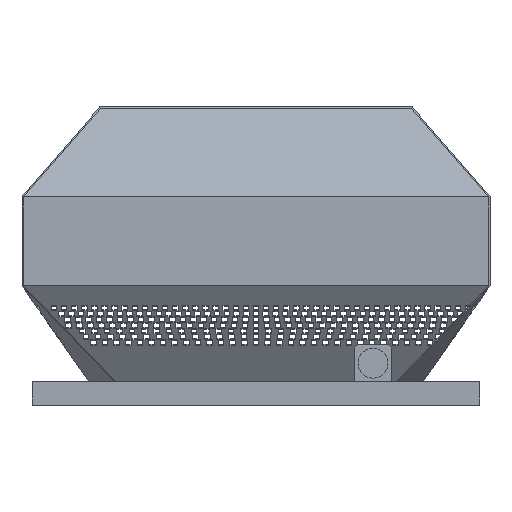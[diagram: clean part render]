
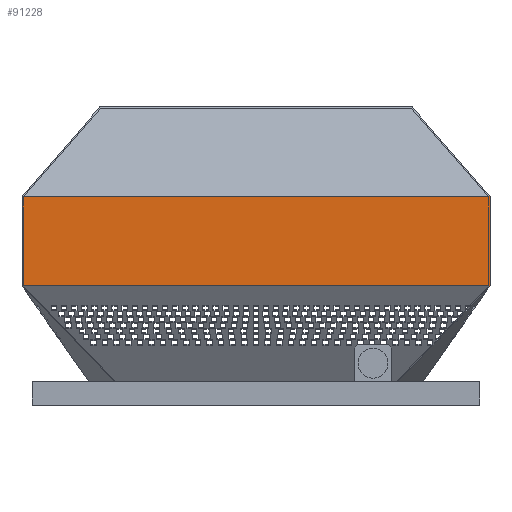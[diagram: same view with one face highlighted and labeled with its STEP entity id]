
A CAD part, left-side view. The second image highlights one B-rep face of the part: STEP entity #91228.
In plain terms, the highlighted planar face has unit normal (-1, 0, 0).
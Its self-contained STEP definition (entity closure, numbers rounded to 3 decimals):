
#7912=PLANE('',#95337);
#11969=FACE_OUTER_BOUND('',#17989,.T.);
#17989=EDGE_LOOP('',(#87134,#87135,#87136,#87137));
#30147=LINE('',#140035,#42331);
#30170=LINE('',#140083,#42354);
#30171=LINE('',#140086,#42355);
#30172=LINE('',#140087,#42356);
#42331=VECTOR('',#115639,10.);
#42354=VECTOR('',#115684,10.);
#42355=VECTOR('',#115687,10.);
#42356=VECTOR('',#115688,10.);
#42654=VERTEX_POINT('',#116466);
#48674=VERTEX_POINT('',#134510);
#50510=VERTEX_POINT('',#140079);
#50512=VERTEX_POINT('',#140085);
#62697=EDGE_CURVE('',#48674,#42654,#30147,.T.);
#62720=EDGE_CURVE('',#50510,#48674,#30170,.T.);
#62721=EDGE_CURVE('',#50512,#50510,#30171,.T.);
#62722=EDGE_CURVE('',#50512,#42654,#30172,.T.);
#87134=ORIENTED_EDGE('',*,*,#62721,.T.);
#87135=ORIENTED_EDGE('',*,*,#62720,.T.);
#87136=ORIENTED_EDGE('',*,*,#62697,.T.);
#87137=ORIENTED_EDGE('',*,*,#62722,.F.);
#91228=ADVANCED_FACE('',(#11969),#7912,.F.);
#95337=AXIS2_PLACEMENT_3D('',#140084,#115685,#115686);
#115639=DIRECTION('',(0.,-1.,0.));
#115684=DIRECTION('',(0.,0.,-1.));
#115685=DIRECTION('center_axis',(1.,0.,0.));
#115686=DIRECTION('ref_axis',(0.,0.,-1.));
#115687=DIRECTION('',(0.,1.,0.));
#115688=DIRECTION('',(0.,0.,-1.));
#116466=CARTESIAN_POINT('',(-303.,-303.,154.4));
#134510=CARTESIAN_POINT('',(-303.,303.,154.4));
#140035=CARTESIAN_POINT('',(-303.,303.,154.4));
#140079=CARTESIAN_POINT('',(-303.,303.,270.2));
#140083=CARTESIAN_POINT('',(-303.,303.,270.2));
#140084=CARTESIAN_POINT('Origin',(-303.,303.,270.2));
#140085=CARTESIAN_POINT('',(-303.,-303.,270.2));
#140086=CARTESIAN_POINT('',(-303.,303.,270.2));
#140087=CARTESIAN_POINT('',(-303.,-303.,270.2));
